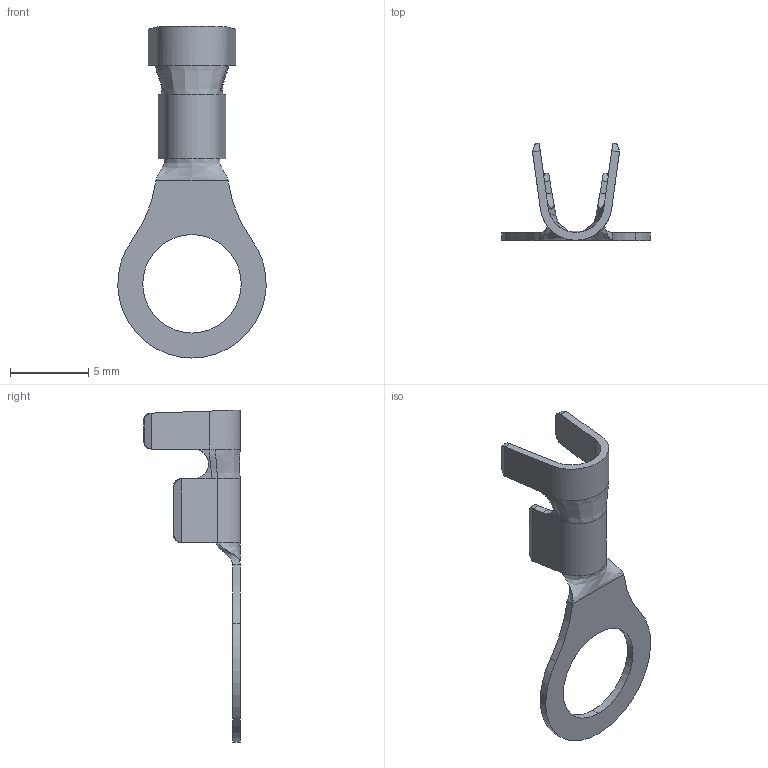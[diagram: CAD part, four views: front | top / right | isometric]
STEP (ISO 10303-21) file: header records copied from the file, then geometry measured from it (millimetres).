
FILE_DESCRIPTION((''),'2;1');
FILE_NAME('TO63952G-2','2024-04-30T14:48:27',('JSB0628'),(''),'CREO PARAMETRIC BY PTC INC, 2018050','CREO PARAMETRIC BY PTC INC, 2018050','');
FILE_SCHEMA(('CONFIG_CONTROL_DESIGN'));
Length unit declared in the file: millimetre
Products named in the file (1): TO63952G-2
Bounding box: 9.49 x 6.2 x 21.25 mm (x, y, z)
Volume: 70.8 mm3; surface area: 333.2 mm2
Topology: 1 solids, 1 shells, 58 faces, 140 edges, 84 vertices
Faces by surface type: plane 25, cylinder 19, bspline 14
Entity records: 2602 total; most frequent: CARTESIAN_POINT 1292, ORIENTED_EDGE 280, DIRECTION 230, EDGE_CURVE 140, VERTEX_POINT 84, VECTOR 78, LINE 78, AXIS2_PLACEMENT_3D 76
